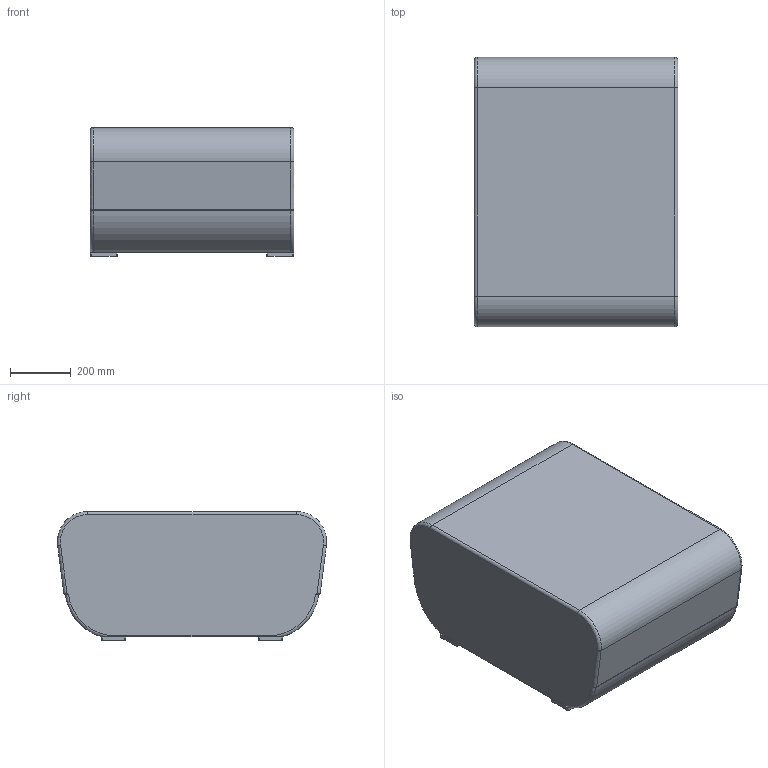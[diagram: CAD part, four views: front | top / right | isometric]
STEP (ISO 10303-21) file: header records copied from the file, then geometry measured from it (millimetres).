
FILE_DESCRIPTION(/* description */ (''),/* implementation_level */ '2;1');
FILE_NAME(/* name */ 'OP29FD~1',/* time_stamp */ '2015-09-28T21:31:15+02:00',/* author */ (''),/* organization */ (''),/* preprocessor_version */ 'ST-DEVELOPER v15',/* originating_system */ '',/* authorisation */ '');
FILE_SCHEMA (('AUTOMOTIVE_DESIGN'));
Length unit declared in the file: millimetre
Products named in the file (1): Document
Bounding box: 670 x 885.34 x 424 mm (x, y, z)
Volume: 337549.2 mm3; surface area: 2301222.8 mm2
Topology: 4 solids, 8 shells, 72 faces, 197 edges, 137 vertices
Faces by surface type: bspline 58, plane 14
Entity records: 2594 total; most frequent: CARTESIAN_POINT 1500, ORIENTED_EDGE 340, EDGE_CURVE 196, VERTEX_POINT 136, ADVANCED_FACE 72, FACE_OUTER_BOUND 72, EDGE_LOOP 72, B_SPLINE_CURVE_WITH_KNOTS 31
